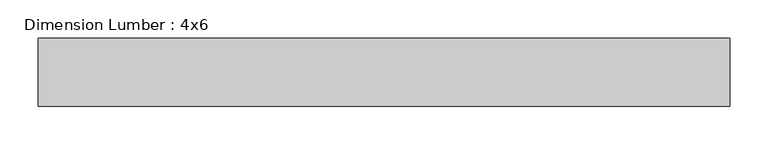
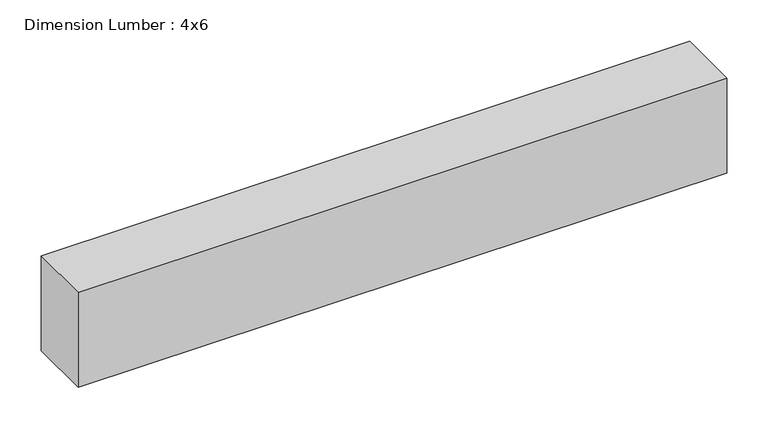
"""IFC4 building model written with IfcOpenShell, lengths in millimetres: beam geometry, Dimension Lumber : 4x6."""

from ifc_helpers import new_model, si_unit, frame, origin, place, context, project, spatial, polyline, outline, extrude, source, transform, mapped, element, save


def dimension_lumber_4x6_0e10d602(model_context):
    return source(origin(), model_context, "Body", "SweptSolid", [
        extrude(outline(polyline([(450.85, 44.45), (450.85, -44.45), (-450.85, -44.45), (-450.85, 44.45), (450.85, 44.45)])), frame((0.0, 0.0, -69.85), z_axis=(0.0, 0.0, 1.0), x_axis=(1.0, 0.0, 0.0)), (0.0, 0.0, 1.0), 139.7),
    ])


if __name__ == "__main__":
    model = new_model("IFC4")
    model_context = context("Model", 3, world=origin())
    ifc_project = project(units=[si_unit("LENGTHUNIT", "METRE", prefix="MILLI")], contexts=[model_context])
    site = spatial("IfcSite", under=ifc_project)
    building = spatial("IfcBuilding", under=site)
    placement = place(None, origin())
    dimension_lumber_4x6_shape = dimension_lumber_4x6_0e10d602(model_context)
    element("IfcBeam", 1, ObjectType="Dimension Lumber : 4x6", at=placement, inside=building, context=model_context, shape_type="MappedRepresentation", body=[
        mapped(dimension_lumber_4x6_shape, transform((0.0, 0.0, 0.0), x_axis=(1.0, 0.0, 0.0), y_axis=(0.0, 1.0, 0.0), z_axis=(0.0, 0.0, 1.0))),
    ])
    save(model, "model.ifc")
